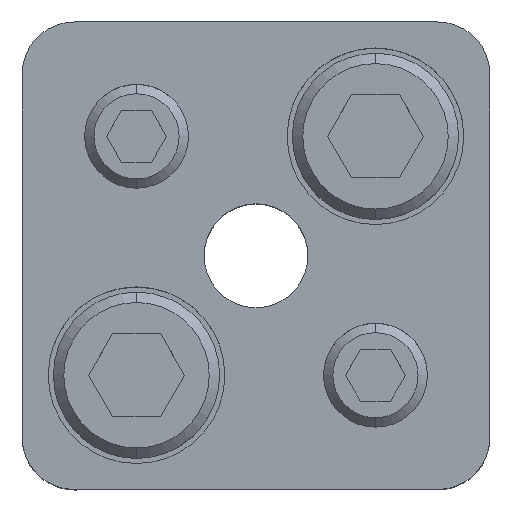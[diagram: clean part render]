
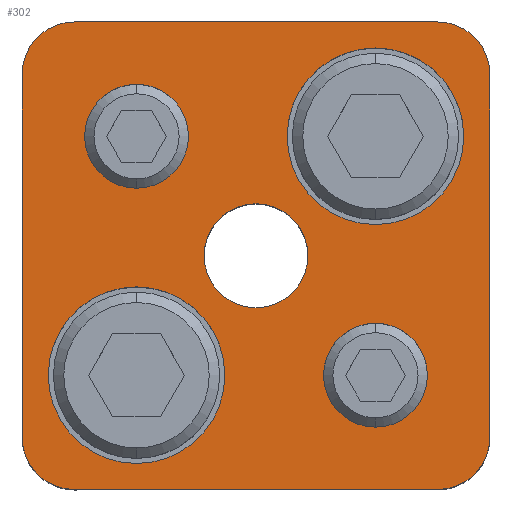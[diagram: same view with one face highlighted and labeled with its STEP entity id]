
A CAD part, top view. The second image highlights one B-rep face of the part: STEP entity #302.
In plain terms, the highlighted planar face has unit normal (0, 0, 1).
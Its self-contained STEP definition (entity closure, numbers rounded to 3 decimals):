
#161=PLANE('',#2460);
#224=FACE_BOUND('',#627,.T.);
#225=FACE_BOUND('',#628,.T.);
#226=FACE_BOUND('',#629,.T.);
#227=FACE_BOUND('',#630,.T.);
#228=FACE_BOUND('',#631,.T.);
#229=FACE_BOUND('',#632,.T.);
#302=ADVANCED_FACE('',(#224,#225,#226,#227,#228,#229),#161,.T.);
#627=EDGE_LOOP('',(#1277,#1278,#1279,#1280,#1281,#1282,#1283,#1284));
#628=EDGE_LOOP('',(#1285,#1286));
#629=EDGE_LOOP('',(#1287,#1288));
#630=EDGE_LOOP('',(#1289,#1290));
#631=EDGE_LOOP('',(#1291,#1292));
#632=EDGE_LOOP('',(#1293,#1294));
#779=LINE('',#3601,#949);
#780=LINE('',#3605,#950);
#781=LINE('',#3609,#951);
#782=LINE('',#3613,#952);
#949=VECTOR('',#2877,1.);
#950=VECTOR('',#2880,1.);
#951=VECTOR('',#2883,1.);
#952=VECTOR('',#2886,1.);
#1277=ORIENTED_EDGE('',*,*,#2005,.T.);
#1278=ORIENTED_EDGE('',*,*,#2006,.T.);
#1279=ORIENTED_EDGE('',*,*,#2007,.T.);
#1280=ORIENTED_EDGE('',*,*,#2008,.T.);
#1281=ORIENTED_EDGE('',*,*,#2009,.T.);
#1282=ORIENTED_EDGE('',*,*,#2010,.T.);
#1283=ORIENTED_EDGE('',*,*,#2011,.T.);
#1284=ORIENTED_EDGE('',*,*,#2012,.T.);
#1285=ORIENTED_EDGE('',*,*,#2013,.F.);
#1286=ORIENTED_EDGE('',*,*,#2014,.F.);
#1287=ORIENTED_EDGE('',*,*,#2015,.F.);
#1288=ORIENTED_EDGE('',*,*,#2016,.F.);
#1289=ORIENTED_EDGE('',*,*,#1991,.F.);
#1290=ORIENTED_EDGE('',*,*,#1987,.F.);
#1291=ORIENTED_EDGE('',*,*,#1985,.F.);
#1292=ORIENTED_EDGE('',*,*,#1981,.F.);
#1293=ORIENTED_EDGE('',*,*,#2017,.T.);
#1294=ORIENTED_EDGE('',*,*,#2018,.T.);
#1755=VERTEX_POINT('',#3549);
#1756=VERTEX_POINT('',#3550);
#1759=VERTEX_POINT('',#3562);
#1760=VERTEX_POINT('',#3563);
#1771=VERTEX_POINT('',#3599);
#1772=VERTEX_POINT('',#3600);
#1773=VERTEX_POINT('',#3602);
#1774=VERTEX_POINT('',#3604);
#1775=VERTEX_POINT('',#3606);
#1776=VERTEX_POINT('',#3608);
#1777=VERTEX_POINT('',#3610);
#1778=VERTEX_POINT('',#3612);
#1779=VERTEX_POINT('',#3615);
#1780=VERTEX_POINT('',#3616);
#1781=VERTEX_POINT('',#3619);
#1782=VERTEX_POINT('',#3620);
#1783=VERTEX_POINT('',#3623);
#1784=VERTEX_POINT('',#3624);
#1981=EDGE_CURVE('',#1755,#1756,#2255,.T.);
#1985=EDGE_CURVE('',#1756,#1755,#2257,.T.);
#1987=EDGE_CURVE('',#1759,#1760,#2259,.T.);
#1991=EDGE_CURVE('',#1760,#1759,#2261,.T.);
#2005=EDGE_CURVE('',#1771,#1772,#2271,.T.);
#2006=EDGE_CURVE('',#1772,#1773,#779,.T.);
#2007=EDGE_CURVE('',#1773,#1774,#2272,.T.);
#2008=EDGE_CURVE('',#1774,#1775,#780,.T.);
#2009=EDGE_CURVE('',#1775,#1776,#2273,.T.);
#2010=EDGE_CURVE('',#1776,#1777,#781,.T.);
#2011=EDGE_CURVE('',#1777,#1778,#2274,.T.);
#2012=EDGE_CURVE('',#1778,#1771,#782,.T.);
#2013=EDGE_CURVE('',#1779,#1780,#2275,.T.);
#2014=EDGE_CURVE('',#1780,#1779,#2276,.T.);
#2015=EDGE_CURVE('',#1781,#1782,#2277,.T.);
#2016=EDGE_CURVE('',#1782,#1781,#2278,.T.);
#2017=EDGE_CURVE('',#1783,#1784,#2279,.T.);
#2018=EDGE_CURVE('',#1784,#1783,#2280,.T.);
#2255=CIRCLE('',#2424,5.);
#2257=CIRCLE('',#2427,5.);
#2259=CIRCLE('',#2431,5.);
#2261=CIRCLE('',#2434,5.);
#2271=CIRCLE('',#2450,5.);
#2272=CIRCLE('',#2451,5.);
#2273=CIRCLE('',#2452,5.);
#2274=CIRCLE('',#2453,5.);
#2275=CIRCLE('',#2454,8.5);
#2276=CIRCLE('',#2455,8.5);
#2277=CIRCLE('',#2456,8.5);
#2278=CIRCLE('',#2457,8.5);
#2279=CIRCLE('',#2458,5.);
#2280=CIRCLE('',#2459,5.);
#2424=AXIS2_PLACEMENT_3D('',#3548,#2815,#2816);
#2427=AXIS2_PLACEMENT_3D('',#3557,#2823,#2824);
#2431=AXIS2_PLACEMENT_3D('',#3561,#2831,#2832);
#2434=AXIS2_PLACEMENT_3D('',#3570,#2839,#2840);
#2450=AXIS2_PLACEMENT_3D('',#3598,#2875,#2876);
#2451=AXIS2_PLACEMENT_3D('',#3603,#2878,#2879);
#2452=AXIS2_PLACEMENT_3D('',#3607,#2881,#2882);
#2453=AXIS2_PLACEMENT_3D('',#3611,#2884,#2885);
#2454=AXIS2_PLACEMENT_3D('',#3614,#2887,#2888);
#2455=AXIS2_PLACEMENT_3D('',#3617,#2889,#2890);
#2456=AXIS2_PLACEMENT_3D('',#3618,#2891,#2892);
#2457=AXIS2_PLACEMENT_3D('',#3621,#2893,#2894);
#2458=AXIS2_PLACEMENT_3D('',#3622,#2895,#2896);
#2459=AXIS2_PLACEMENT_3D('',#3625,#2897,#2898);
#2460=AXIS2_PLACEMENT_3D('',#3626,#2899,#2900);
#2815=DIRECTION('',(0.,0.,1.));
#2816=DIRECTION('',(-1.,0.,0.));
#2823=DIRECTION('',(0.,0.,1.));
#2824=DIRECTION('',(1.,0.,0.));
#2831=DIRECTION('',(0.,0.,1.));
#2832=DIRECTION('',(-1.,0.,0.));
#2839=DIRECTION('',(0.,0.,1.));
#2840=DIRECTION('',(1.,0.,0.));
#2875=DIRECTION('',(0.,0.,1.));
#2876=DIRECTION('',(-0.707,0.707,0.));
#2877=DIRECTION('',(0.,1.,0.));
#2878=DIRECTION('',(0.,0.,1.));
#2879=DIRECTION('',(-0.707,-0.707,0.));
#2880=DIRECTION('',(-1.,0.,0.));
#2881=DIRECTION('',(0.,0.,1.));
#2882=DIRECTION('',(0.707,-0.707,0.));
#2883=DIRECTION('',(0.,-1.,0.));
#2884=DIRECTION('',(0.,0.,1.));
#2885=DIRECTION('',(0.707,0.707,0.));
#2886=DIRECTION('',(1.,0.,0.));
#2887=DIRECTION('',(0.,0.,1.));
#2888=DIRECTION('',(1.,0.,0.));
#2889=DIRECTION('',(0.,0.,1.));
#2890=DIRECTION('',(-1.,0.,0.));
#2891=DIRECTION('',(0.,0.,1.));
#2892=DIRECTION('',(1.,0.,0.));
#2893=DIRECTION('',(0.,0.,1.));
#2894=DIRECTION('',(-1.,0.,0.));
#2895=DIRECTION('',(0.,0.,-1.));
#2896=DIRECTION('',(-1.,0.,0.));
#2897=DIRECTION('',(0.,0.,-1.));
#2898=DIRECTION('',(1.,0.,0.));
#2899=DIRECTION('',(0.,0.,1.));
#2900=DIRECTION('',(-1.,0.,0.));
#3548=CARTESIAN_POINT('',(11.5,-11.5,30.));
#3549=CARTESIAN_POINT('',(11.5,-16.5,30.));
#3550=CARTESIAN_POINT('',(11.5,-6.5,30.));
#3557=CARTESIAN_POINT('',(11.5,-11.5,30.));
#3561=CARTESIAN_POINT('',(-11.5,11.5,30.));
#3562=CARTESIAN_POINT('',(-11.5,6.5,30.));
#3563=CARTESIAN_POINT('',(-11.5,16.5,30.));
#3570=CARTESIAN_POINT('',(-11.5,11.5,30.));
#3598=CARTESIAN_POINT('',(17.5,-17.5,30.));
#3599=CARTESIAN_POINT('',(17.5,-22.5,30.));
#3600=CARTESIAN_POINT('',(22.5,-17.5,30.));
#3601=CARTESIAN_POINT('',(22.5,17.5,30.));
#3602=CARTESIAN_POINT('',(22.5,17.5,30.));
#3603=CARTESIAN_POINT('',(17.5,17.5,30.));
#3604=CARTESIAN_POINT('',(17.5,22.5,30.));
#3605=CARTESIAN_POINT('',(-17.5,22.5,30.));
#3606=CARTESIAN_POINT('',(-17.5,22.5,30.));
#3607=CARTESIAN_POINT('',(-17.5,17.5,30.));
#3608=CARTESIAN_POINT('',(-22.5,17.5,30.));
#3609=CARTESIAN_POINT('',(-22.5,17.5,30.));
#3610=CARTESIAN_POINT('',(-22.5,-17.5,30.));
#3611=CARTESIAN_POINT('',(-17.5,-17.5,30.));
#3612=CARTESIAN_POINT('',(-17.5,-22.5,30.));
#3613=CARTESIAN_POINT('',(-17.5,-22.5,30.));
#3614=CARTESIAN_POINT('',(11.5,11.5,30.));
#3615=CARTESIAN_POINT('',(11.5,20.,30.));
#3616=CARTESIAN_POINT('',(11.5,3.,30.));
#3617=CARTESIAN_POINT('',(11.5,11.5,30.));
#3618=CARTESIAN_POINT('',(-11.5,-11.5,30.));
#3619=CARTESIAN_POINT('',(-11.5,-3.,30.));
#3620=CARTESIAN_POINT('',(-11.5,-20.,30.));
#3621=CARTESIAN_POINT('',(-11.5,-11.5,30.));
#3622=CARTESIAN_POINT('',(0.,0.,30.));
#3623=CARTESIAN_POINT('',(0.,5.,30.));
#3624=CARTESIAN_POINT('',(0.,-5.,30.));
#3625=CARTESIAN_POINT('',(0.,0.,30.));
#3626=CARTESIAN_POINT('',(17.5,-22.5,30.));
